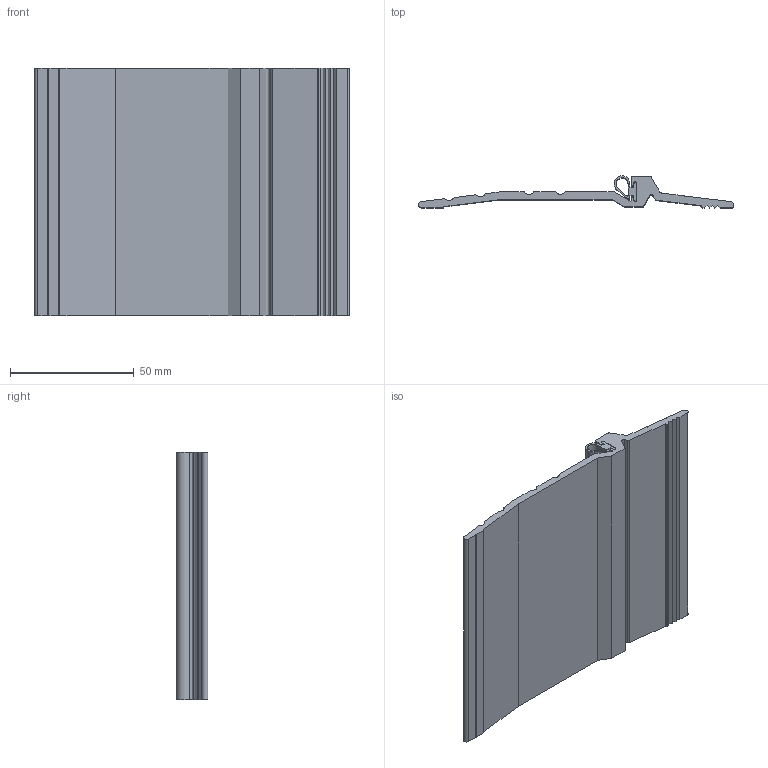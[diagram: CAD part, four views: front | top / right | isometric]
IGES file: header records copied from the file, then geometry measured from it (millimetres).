
Global section: file name: No Iges File Name specified; native system: Autodesk Inventor 2012; preprocessor: AutoDesk Inventor Iges Exporter R2012; author: anna.b; date: 20130821.152445; units: millimetre
Bounding box: 127 x 12.87 x 100 mm (x, y, z)
Volume: 47162.9 mm3; surface area: 35909.9 mm2
Topology: 2 solids, 2 shells, 85 faces, 243 edges, 162 vertices
Faces by surface type: plane 61, revolution 13, cylinder 11
